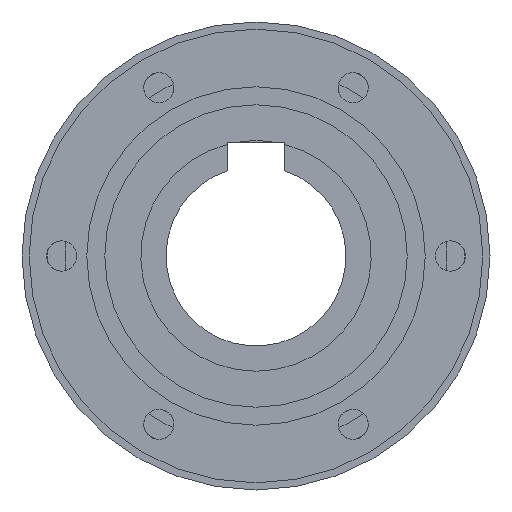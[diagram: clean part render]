
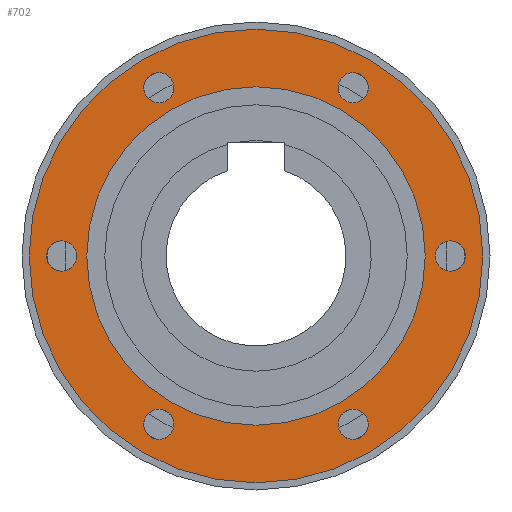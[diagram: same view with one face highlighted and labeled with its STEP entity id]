
A CAD part, left-side view. The second image highlights one B-rep face of the part: STEP entity #702.
In plain terms, the highlighted planar face has unit normal (-1, 0, 0).
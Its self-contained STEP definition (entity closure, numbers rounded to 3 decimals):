
#18=FACE_BOUND('',#130,.T.);
#19=FACE_BOUND('',#131,.T.);
#20=FACE_BOUND('',#132,.T.);
#21=FACE_BOUND('',#133,.T.);
#22=FACE_BOUND('',#134,.T.);
#23=FACE_BOUND('',#135,.T.);
#24=FACE_BOUND('',#136,.T.);
#44=PLANE('',#826);
#86=FACE_OUTER_BOUND('',#129,.T.);
#129=EDGE_LOOP('',(#629));
#130=EDGE_LOOP('',(#630));
#131=EDGE_LOOP('',(#631));
#132=EDGE_LOOP('',(#632));
#133=EDGE_LOOP('',(#633));
#134=EDGE_LOOP('',(#634));
#135=EDGE_LOOP('',(#635));
#136=EDGE_LOOP('',(#636));
#246=CIRCLE('',#762,31.5);
#247=CIRCLE('',#764,23.5);
#251=CIRCLE('',#770,2.1);
#255=CIRCLE('',#775,2.1);
#259=CIRCLE('',#780,2.1);
#263=CIRCLE('',#785,2.1);
#267=CIRCLE('',#790,2.1);
#271=CIRCLE('',#795,2.1);
#309=VERTEX_POINT('',#1146);
#310=VERTEX_POINT('',#1150);
#314=VERTEX_POINT('',#1162);
#316=VERTEX_POINT('',#1170);
#318=VERTEX_POINT('',#1178);
#320=VERTEX_POINT('',#1186);
#322=VERTEX_POINT('',#1194);
#324=VERTEX_POINT('',#1202);
#380=EDGE_CURVE('',#309,#309,#246,.T.);
#381=EDGE_CURVE('',#310,#310,#247,.T.);
#387=EDGE_CURVE('',#314,#314,#251,.T.);
#392=EDGE_CURVE('',#316,#316,#255,.T.);
#397=EDGE_CURVE('',#318,#318,#259,.T.);
#402=EDGE_CURVE('',#320,#320,#263,.T.);
#407=EDGE_CURVE('',#322,#322,#267,.T.);
#412=EDGE_CURVE('',#324,#324,#271,.T.);
#629=ORIENTED_EDGE('',*,*,#380,.F.);
#630=ORIENTED_EDGE('',*,*,#381,.T.);
#631=ORIENTED_EDGE('',*,*,#412,.T.);
#632=ORIENTED_EDGE('',*,*,#407,.T.);
#633=ORIENTED_EDGE('',*,*,#402,.T.);
#634=ORIENTED_EDGE('',*,*,#397,.T.);
#635=ORIENTED_EDGE('',*,*,#392,.T.);
#636=ORIENTED_EDGE('',*,*,#387,.T.);
#702=ADVANCED_FACE('',(#86,#18,#19,#20,#21,#22,#23,#24),#44,.T.);
#762=AXIS2_PLACEMENT_3D('',#1148,#910,#911);
#764=AXIS2_PLACEMENT_3D('',#1151,#914,#915);
#770=AXIS2_PLACEMENT_3D('',#1163,#928,#929);
#775=AXIS2_PLACEMENT_3D('',#1171,#939,#940);
#780=AXIS2_PLACEMENT_3D('',#1179,#950,#951);
#785=AXIS2_PLACEMENT_3D('',#1187,#961,#962);
#790=AXIS2_PLACEMENT_3D('',#1195,#972,#973);
#795=AXIS2_PLACEMENT_3D('',#1203,#983,#984);
#826=AXIS2_PLACEMENT_3D('',#1278,#1068,#1069);
#910=DIRECTION('center_axis',(1.,0.,0.));
#911=DIRECTION('ref_axis',(0.,0.,-1.));
#914=DIRECTION('center_axis',(1.,0.,0.));
#915=DIRECTION('ref_axis',(0.,0.,-1.));
#928=DIRECTION('center_axis',(1.,0.,0.));
#929=DIRECTION('ref_axis',(0.,0.,-1.));
#939=DIRECTION('center_axis',(1.,0.,0.));
#940=DIRECTION('ref_axis',(0.,0.,-1.));
#950=DIRECTION('center_axis',(1.,0.,0.));
#951=DIRECTION('ref_axis',(0.,0.,-1.));
#961=DIRECTION('center_axis',(1.,0.,0.));
#962=DIRECTION('ref_axis',(0.,0.,-1.));
#972=DIRECTION('center_axis',(1.,0.,0.));
#973=DIRECTION('ref_axis',(0.,0.,-1.));
#983=DIRECTION('center_axis',(1.,0.,0.));
#984=DIRECTION('ref_axis',(0.,0.,-1.));
#1068=DIRECTION('center_axis',(-1.,0.,0.));
#1069=DIRECTION('ref_axis',(0.,0.,1.));
#1146=CARTESIAN_POINT('',(11.,0.,31.5));
#1148=CARTESIAN_POINT('Origin',(11.,0.,0.));
#1150=CARTESIAN_POINT('',(11.,0.,23.5));
#1151=CARTESIAN_POINT('Origin',(11.,0.,0.));
#1162=CARTESIAN_POINT('',(11.,-27.,2.1));
#1163=CARTESIAN_POINT('Origin',(11.,-27.,0.));
#1170=CARTESIAN_POINT('',(11.,-13.5,-21.283));
#1171=CARTESIAN_POINT('Origin',(11.,-13.5,-23.383));
#1178=CARTESIAN_POINT('',(11.,13.5,-21.283));
#1179=CARTESIAN_POINT('Origin',(11.,13.5,-23.383));
#1186=CARTESIAN_POINT('',(11.,27.,2.1));
#1187=CARTESIAN_POINT('Origin',(11.,27.,0.));
#1194=CARTESIAN_POINT('',(11.,13.5,25.483));
#1195=CARTESIAN_POINT('Origin',(11.,13.5,23.383));
#1202=CARTESIAN_POINT('',(11.,-13.5,25.483));
#1203=CARTESIAN_POINT('Origin',(11.,-13.5,23.383));
#1278=CARTESIAN_POINT('Origin',(11.,0.,-27.5));
